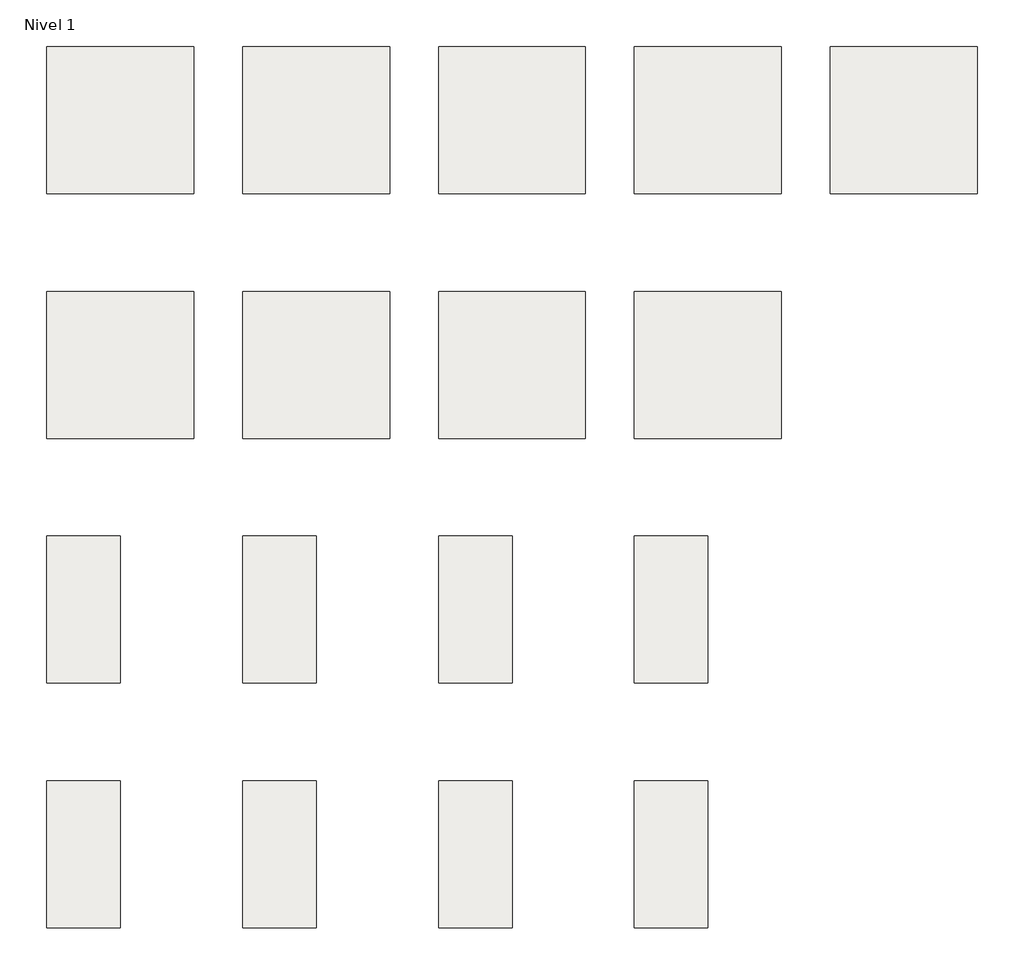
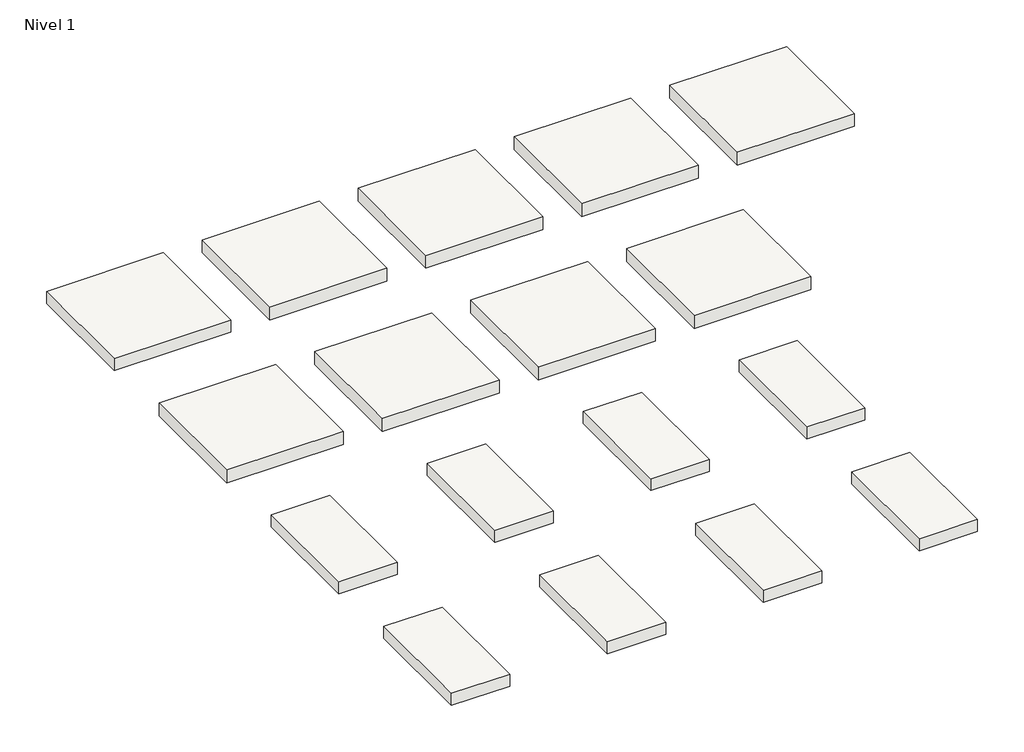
# One storey: 17 slabs.
"""IFC4 building model written with IfcOpenShell, lengths in millimetres."""

import ifcopenshell
import ifcopenshell.guid

model = None  # the IFC model being written
_history = None  # IfcOwnerHistory: only IFC2X3 demands one
_inside = {}  # id of a spatial element -> (the spatial element, [elements in it])
_under = {}  # id of a project, library or spatial element -> (it, [spatial elements below it])
_declared = {}  # id of a project -> (the project, [libraries it declares])
_typed = {}  # id of a type object -> (the type object, [elements of that type])
_made_of = {}  # id of a material, layer set ... -> (it, [elements and type objects made of it])


def new_model(schema):
    """Start an empty IFC model of exactly this schema.

    Asked for "IFC4X3", IfcOpenShell would pick the latest addendum, in which some entities
    have other attributes; the version numbers below select the first issue.
    IFC2X3 requires an IfcOwnerHistory on every rooted entity: one is made here for all.
    """
    global model, _history
    if schema == "IFC4X3":
        model = ifcopenshell.file(schema_version=(4, 3, 0, 0))
    else:
        model = ifcopenshell.file(schema=schema)
    _inside.clear()
    _under.clear()
    _declared.clear()
    _typed.clear()
    _made_of.clear()
    _history = None
    if model.schema == "IFC2X3":
        org = make("IfcOrganization", Name="unknown")
        user = make(
            "IfcPersonAndOrganization",
            ThePerson=make("IfcPerson", FamilyName="unknown"),
            TheOrganization=org,
        )
        app = make(
            "IfcApplication",
            ApplicationDeveloper=org,
            Version="unknown",
            ApplicationFullName="unknown",
            ApplicationIdentifier="unknown",
        )
        _history = make(
            "IfcOwnerHistory",
            OwningUser=user,
            OwningApplication=app,
            ChangeAction="ADDED",
            CreationDate=0,
        )
    return model


def make(cls, **values):
    """One entity of the class cls with the attributes given. An attribute that is None is left unset."""
    return model.create_entity(
        cls, **{name: value for name, value in values.items() if value is not None}
    )


def rooted(cls, **values):
    """An entity with a GlobalId (a new one), such as an element, a storey or a relation."""
    return make(cls, GlobalId=ifcopenshell.guid.new(), OwnerHistory=_history, **values)


def si_unit(unit_type, name, prefix=None):
    """IfcSIUnit, for example si_unit("LENGTHUNIT", "METRE", prefix="MILLI")."""
    return make("IfcSIUnit", UnitType=unit_type, Prefix=prefix, Name=name)


def assignment(units):
    """IfcUnitAssignment: the units of a project."""
    return None if units is None else make("IfcUnitAssignment", Units=units)


def point(xyz):
    """IfcCartesianPoint."""
    return None if xyz is None else make("IfcCartesianPoint", Coordinates=xyz)


def direction(xyz):
    """IfcDirection."""
    return None if xyz is None else make("IfcDirection", DirectionRatios=xyz)


def frame(location, z_axis=None, x_axis=None):
    """IfcAxis2Placement3D, a coordinate frame: its origin and axes. An axis left out is left unset."""
    return make(
        "IfcAxis2Placement3D",
        Location=point(location),
        Axis=direction(z_axis),
        RefDirection=direction(x_axis),
    )


def origin():
    """The frame at (0, 0, 0) with its axes left unset."""
    return frame((0.0, 0.0, 0.0))


def place(relative_to, where):
    """IfcLocalPlacement: puts the frame where relative to a parent placement (None: the world)."""
    return make(
        "IfcLocalPlacement", PlacementRelTo=relative_to, RelativePlacement=where
    )


def context(
    kind, dimensions, precision=None, world=None, true_north=None, identifier=None
):
    """IfcGeometricRepresentationContext, for example the 3D "Model" context."""
    return make(
        "IfcGeometricRepresentationContext",
        ContextIdentifier=identifier,
        ContextType=kind,
        CoordinateSpaceDimension=dimensions,
        Precision=precision,
        WorldCoordinateSystem=world,
        TrueNorth=true_north,
    )


def project(units=None, contexts=None):
    """IfcProject with its units and contexts."""
    return rooted(
        "IfcProject",
        Name="project",
        RepresentationContexts=contexts,
        UnitsInContext=assignment(units),
    )


def spatial(cls, under=None, at=None, **own):
    """A site, building, storey or space (cls), placed at a placement, below another one or the project."""
    s = rooted(cls, ObjectPlacement=at, **own)
    if under is not None:
        _under.setdefault(under.id(), (under, []))[1].append(s)
    return s


def polyline(points):
    """IfcPolyline through the points."""
    return make("IfcPolyline", Points=[point(p) for p in points])


def outline(outer, holes=None, kind="AREA"):
    """IfcArbitraryClosedProfileDef: a profile drawn as a closed curve; with holes, ...WithVoids."""
    if holes is None:
        return make("IfcArbitraryClosedProfileDef", ProfileType=kind, OuterCurve=outer)
    return make(
        "IfcArbitraryProfileDefWithVoids",
        ProfileType=kind,
        OuterCurve=outer,
        InnerCurves=holes,
    )


def extrude(swept, where, along, depth):
    """IfcExtrudedAreaSolid: the profile swept, set in the frame where, extruded along a direction by depth."""
    return make(
        "IfcExtrudedAreaSolid",
        SweptArea=swept,
        Position=where,
        ExtrudedDirection=direction(along),
        Depth=depth,
    )


def shape(context_of_items, identifier, shape_type, items):
    """IfcShapeRepresentation: the items that make up one representation, for example the "Body"."""
    return make(
        "IfcShapeRepresentation",
        ContextOfItems=context_of_items,
        RepresentationIdentifier=identifier,
        RepresentationType=shape_type,
        Items=items,
    )


def made_of(thing, what):
    """Note that an element or type object is made of a material, layer set ...; save() writes the relation."""
    if what is not None:
        _made_of.setdefault(what.id(), (what, []))[1].append(thing)
    return thing


def element(
    cls,
    number,
    at=None,
    inside=None,
    cuts=None,
    type_object=None,
    material=None,
    context=None,
    identifier="Body",
    shape_type=None,
    held_by="IfcProductDefinitionShape",
    body=None,
    shapes=None,
    **own,
):
    """One element of the class cls, such as IfcWall. Its Tag is "e" and its number.

    at: its placement. inside: the storey or other place that contains it. cuts: it is an
    opening in that element (IfcRelVoidsElement). A single representation is given by context,
    identifier, shape_type and body (its items); several are given by shapes. held_by: the class
    of the entity that holds the representations. save() writes the other relations.
    """
    e = rooted(cls, Tag="e%d" % number, ObjectPlacement=at, **own)
    if body is not None:
        shapes = [shape(context, identifier, shape_type, body)]
    if shapes is not None:
        e.Representation = make(held_by, Representations=shapes)
    if inside is not None:
        _inside.setdefault(inside.id(), (inside, []))[1].append(e)
    if cuts is not None:
        rooted(
            "IfcRelVoidsElement", RelatingBuildingElement=cuts, RelatedOpeningElement=e
        )
    if type_object is not None:
        _typed.setdefault(type_object.id(), (type_object, []))[1].append(e)
    return made_of(e, material)


def aggregate(whole, parts):
    """IfcRelAggregates: a whole, such as a stair, and the parts it consists of."""
    return rooted("IfcRelAggregates", RelatingObject=whole, RelatedObjects=parts)


def save(model, path):
    """Write the relations noted so far, then the file.

    IfcRelAggregates (storeys below a building ...), IfcRelContainedInSpatialStructure (elements
    in a storey), IfcRelDefinesByType, IfcRelAssociatesMaterial and IfcRelDeclares: one each for
    every whole, place, type object, material and project.
    """
    for whole, parts in _under.values():
        aggregate(whole, parts)
    for where, things in _inside.values():
        rooted(
            "IfcRelContainedInSpatialStructure",
            RelatedElements=things,
            RelatingStructure=where,
        )
    for kind, things in _typed.values():
        rooted("IfcRelDefinesByType", RelatedObjects=things, RelatingType=kind)
    for what, things in _made_of.values():
        rooted("IfcRelAssociatesMaterial", RelatedObjects=things, RelatingMaterial=what)
    for by, libraries in _declared.values():
        rooted("IfcRelDeclares", RelatingContext=by, RelatedDefinitions=libraries)
    model.write(path)


model = new_model("IFC4")

# Units and contexts
model_context = context("Model", 3, world=origin())
ifc_project = project(units=[si_unit("LENGTHUNIT", "METRE", prefix="MILLI")], contexts=[model_context])

# Site, building, storey
site = spatial("IfcSite", under=ifc_project)
building = spatial("IfcBuilding", under=site)
storey = spatial("IfcBuildingStorey", under=building, Name="Nivel 1", Elevation=0.0)

# Slabs
placement = place(None, origin())
element("IfcSlab", 1, ObjectType="Stark Antracita 15 60X60 Rect.", at=placement, inside=storey, context=model_context, shape_type="SweptSolid", body=[
    extrude(outline(polyline([(800.0, 600.0), (1400.0, 600.0), (1400.0, 0.0), (800.0, 0.0), (800.0, 600.0)])), frame((0.0, 0.0, -70.0), z_axis=(0.0, 0.0, 1.0), x_axis=(1.0, 0.0, 0.0)), (0.0, 0.0, 1.0), 70.0),
])
element("IfcSlab", 2, ObjectType="Stark Blanco 15 60X60 Rect.", at=placement, inside=storey, context=model_context, shape_type="SweptSolid", body=[
    extrude(outline(polyline([(1600.0, 600.0), (2200.0, 600.0), (2200.0, 0.0), (1600.0, 0.0), (1600.0, 600.0)])), frame((0.0, 0.0, -70.0), z_axis=(0.0, 0.0, 1.0), x_axis=(1.0, 0.0, 0.0)), (0.0, 0.0, 1.0), 70.0),
])
element("IfcSlab", 3, ObjectType="Stark Cemento 15 60X60 Rect.", at=placement, inside=storey, context=model_context, shape_type="SweptSolid", body=[
    extrude(outline(polyline([(2400.0, 600.0), (3000.0, 600.0), (3000.0, 0.0), (2400.0, 0.0), (2400.0, 600.0)])), frame((0.0, 0.0, -70.0), z_axis=(0.0, 0.0, 1.0), x_axis=(1.0, 0.0, 0.0)), (0.0, 0.0, 1.0), 70.0),
])
element("IfcSlab", 4, ObjectType="Stark Gris 15 60X60 Rect.", at=placement, inside=storey, context=model_context, shape_type="SweptSolid", body=[
    extrude(outline(polyline([(3200.0, 600.0), (3800.0, 600.0), (3800.0, 0.0), (3200.0, 0.0), (3200.0, 600.0)])), frame((0.0, 0.0, -70.0), z_axis=(0.0, 0.0, 1.0), x_axis=(1.0, 0.0, 0.0)), (0.0, 0.0, 1.0), 70.0),
])
element("IfcSlab", 5, ObjectType="Stark Marengo 15 60X60 Rect.", at=placement, inside=storey, context=model_context, shape_type="SweptSolid", body=[
    extrude(outline(polyline([(0.0, -400.0), (600.0, -400.0), (600.0, -1000.0), (0.0, -1000.0), (0.0, -400.0)])), frame((0.0, 0.0, -70.0), z_axis=(0.0, 0.0, 1.0), x_axis=(1.0, 0.0, 0.0)), (0.0, 0.0, 1.0), 70.0),
])
element("IfcSlab", 6, ObjectType="Stark Marfil 15 60X60 Rect.", at=placement, inside=storey, context=model_context, shape_type="SweptSolid", body=[
    extrude(outline(polyline([(800.0, -400.0), (1400.0, -400.0), (1400.0, -1000.0), (800.0, -1000.0), (800.0, -400.0)])), frame((0.0, 0.0, -70.0), z_axis=(0.0, 0.0, 1.0), x_axis=(1.0, 0.0, 0.0)), (0.0, 0.0, 1.0), 70.0),
])
element("IfcSlab", 7, ObjectType="Stark Negro 15 60X60 Rect.", at=placement, inside=storey, context=model_context, shape_type="SweptSolid", body=[
    extrude(outline(polyline([(1600.0, -400.0), (2200.0, -400.0), (2200.0, -1000.0), (1600.0, -1000.0), (1600.0, -400.0)])), frame((0.0, 0.0, -70.0), z_axis=(0.0, 0.0, 1.0), x_axis=(1.0, 0.0, 0.0)), (0.0, 0.0, 1.0), 70.0),
])
element("IfcSlab", 8, ObjectType="Stark Taupe 15 60X60 Rect.", at=placement, inside=storey, context=model_context, shape_type="SweptSolid", body=[
    extrude(outline(polyline([(2400.0, -400.0), (3000.0, -400.0), (3000.0, -1000.0), (2400.0, -1000.0), (2400.0, -400.0)])), frame((0.0, 0.0, -70.0), z_axis=(0.0, 0.0, 1.0), x_axis=(1.0, 0.0, 0.0)), (0.0, 0.0, 1.0), 70.0),
])
element("IfcSlab", 9, ObjectType="Stark Antracita 30X60 Rect.", at=placement, inside=storey, context=model_context, shape_type="SweptSolid", body=[
    extrude(outline(polyline([(0.0, -1400.0), (300.0, -1400.0), (300.0, -2000.0), (0.0, -2000.0), (0.0, -1400.0)])), frame((0.0, 0.0, -65.0), z_axis=(0.0, 0.0, 1.0), x_axis=(1.0, 0.0, 0.0)), (0.0, 0.0, 1.0), 65.0),
])
element("IfcSlab", 10, ObjectType="Stark Blanco 30X60 Rect.", at=placement, inside=storey, context=model_context, shape_type="SweptSolid", body=[
    extrude(outline(polyline([(800.0, -1400.0), (1100.0, -1400.0), (1100.0, -2000.0), (800.0, -2000.0), (800.0, -1400.0)])), frame((0.0, 0.0, -65.0), z_axis=(0.0, 0.0, 1.0), x_axis=(1.0, 0.0, 0.0)), (0.0, 0.0, 1.0), 65.0),
])
element("IfcSlab", 11, ObjectType="Stark Cemento 30X60 Rect.", at=placement, inside=storey, context=model_context, shape_type="SweptSolid", body=[
    extrude(outline(polyline([(1600.0, -1400.0), (1900.0, -1400.0), (1900.0, -2000.0), (1600.0, -2000.0), (1600.0, -1400.0)])), frame((0.0, 0.0, -65.0), z_axis=(0.0, 0.0, 1.0), x_axis=(1.0, 0.0, 0.0)), (0.0, 0.0, 1.0), 65.0),
])
element("IfcSlab", 12, ObjectType="Stark Gris 30X60 Rect.", at=placement, inside=storey, context=model_context, shape_type="SweptSolid", body=[
    extrude(outline(polyline([(2400.0, -1400.0), (2700.0, -1400.0), (2700.0, -2000.0), (2400.0, -2000.0), (2400.0, -1400.0)])), frame((0.0, 0.0, -65.0), z_axis=(0.0, 0.0, 1.0), x_axis=(1.0, 0.0, 0.0)), (0.0, 0.0, 1.0), 65.0),
])
element("IfcSlab", 13, ObjectType="Stark Marengo 30X60 Rect.", at=placement, inside=storey, context=model_context, shape_type="SweptSolid", body=[
    extrude(outline(polyline([(0.0, -2400.0), (300.0, -2400.0), (300.0, -3000.0), (0.0, -3000.0), (0.0, -2400.0)])), frame((0.0, 0.0, -65.0), z_axis=(0.0, 0.0, 1.0), x_axis=(1.0, 0.0, 0.0)), (0.0, 0.0, 1.0), 65.0),
])
element("IfcSlab", 14, ObjectType="Stark Marfil 30X60 Rect.", at=placement, inside=storey, context=model_context, shape_type="SweptSolid", body=[
    extrude(outline(polyline([(800.0, -2400.0), (1100.0, -2400.0), (1100.0, -3000.0), (800.0, -3000.0), (800.0, -2400.0)])), frame((0.0, 0.0, -65.0), z_axis=(0.0, 0.0, 1.0), x_axis=(1.0, 0.0, 0.0)), (0.0, 0.0, 1.0), 65.0),
])
element("IfcSlab", 15, ObjectType="Stark Negro 30X60 Rect.", at=placement, inside=storey, context=model_context, shape_type="SweptSolid", body=[
    extrude(outline(polyline([(1600.0, -2400.0), (1900.0, -2400.0), (1900.0, -3000.0), (1600.0, -3000.0), (1600.0, -2400.0)])), frame((0.0, 0.0, -65.0), z_axis=(0.0, 0.0, 1.0), x_axis=(1.0, 0.0, 0.0)), (0.0, 0.0, 1.0), 65.0),
])
element("IfcSlab", 16, ObjectType="Stark Taupe 30X60 Rect.", at=placement, inside=storey, context=model_context, shape_type="SweptSolid", body=[
    extrude(outline(polyline([(2400.0, -2400.0), (2700.0, -2400.0), (2700.0, -3000.0), (2400.0, -3000.0), (2400.0, -2400.0)])), frame((0.0, 0.0, -65.0), z_axis=(0.0, 0.0, 1.0), x_axis=(1.0, 0.0, 0.0)), (0.0, 0.0, 1.0), 65.0),
])
element("IfcSlab", 17, ObjectType="Hybrid Chocolate 60X60 Rect.", at=placement, inside=storey, context=model_context, shape_type="SweptSolid", body=[
    extrude(outline(polyline([(0.0, 600.0), (600.0, 600.0), (600.0, 0.0), (0.0, 0.0), (0.0, 600.0)])), frame((0.0, 0.0, -65.0), z_axis=(0.0, 0.0, 1.0), x_axis=(1.0, 0.0, 0.0)), (0.0, 0.0, 1.0), 65.0),
])

save(model, "model.ifc")
